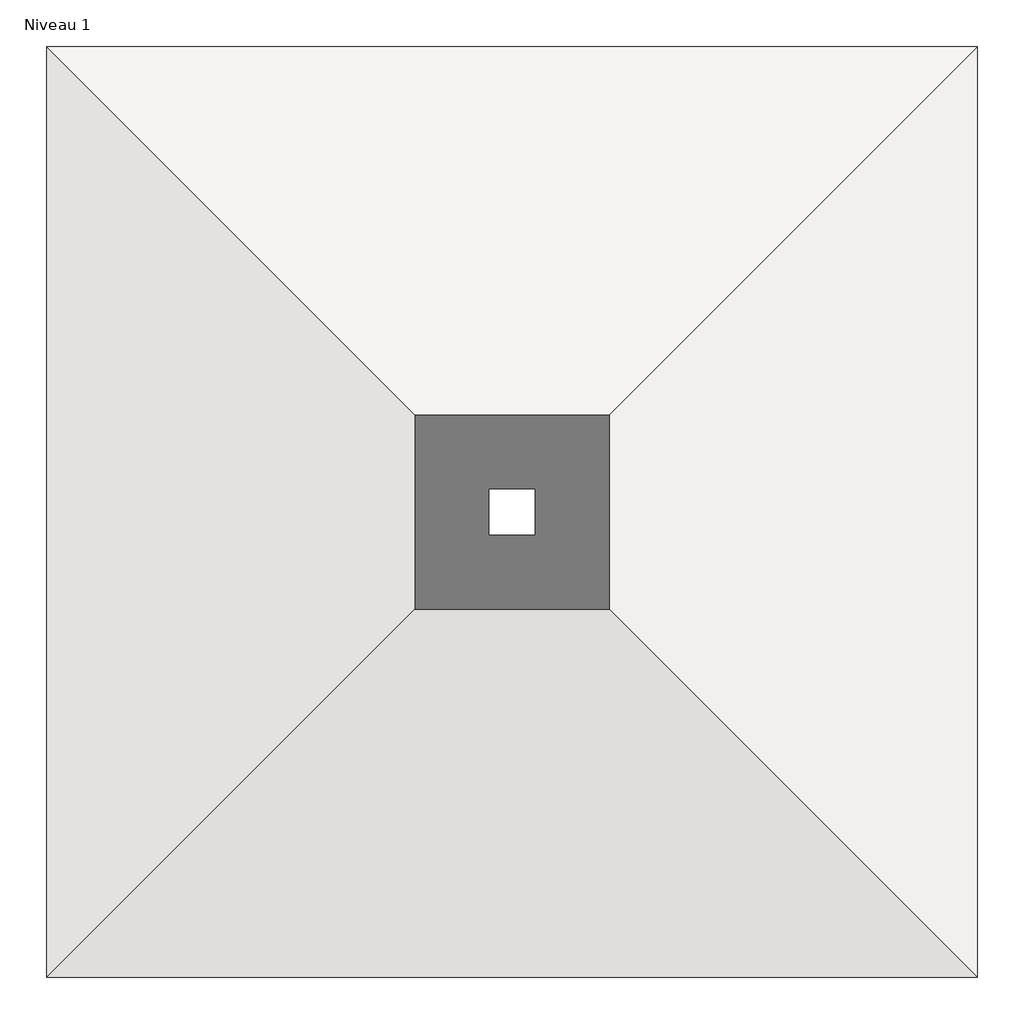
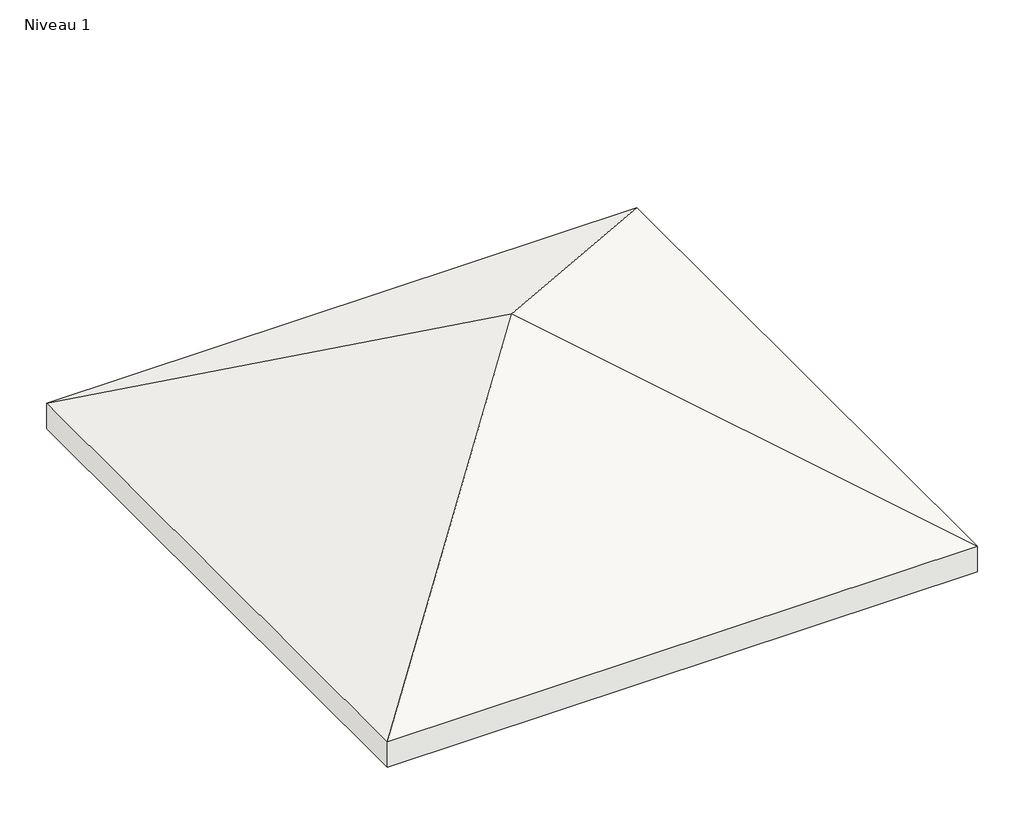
# One storey: 1 roof.
"""IFC4 building model written with IfcOpenShell, lengths in millimetres."""

import ifcopenshell
import ifcopenshell.guid

model = None  # the IFC model being written
_history = None  # IfcOwnerHistory: only IFC2X3 demands one
_inside = {}  # id of a spatial element -> (the spatial element, [elements in it])
_under = {}  # id of a project, library or spatial element -> (it, [spatial elements below it])
_declared = {}  # id of a project -> (the project, [libraries it declares])
_typed = {}  # id of a type object -> (the type object, [elements of that type])
_made_of = {}  # id of a material, layer set ... -> (it, [elements and type objects made of it])


def new_model(schema):
    """Start an empty IFC model of exactly this schema.

    Asked for "IFC4X3", IfcOpenShell would pick the latest addendum, in which some entities
    have other attributes; the version numbers below select the first issue.
    IFC2X3 requires an IfcOwnerHistory on every rooted entity: one is made here for all.
    """
    global model, _history
    if schema == "IFC4X3":
        model = ifcopenshell.file(schema_version=(4, 3, 0, 0))
    else:
        model = ifcopenshell.file(schema=schema)
    _inside.clear()
    _under.clear()
    _declared.clear()
    _typed.clear()
    _made_of.clear()
    _history = None
    if model.schema == "IFC2X3":
        org = make("IfcOrganization", Name="unknown")
        user = make(
            "IfcPersonAndOrganization",
            ThePerson=make("IfcPerson", FamilyName="unknown"),
            TheOrganization=org,
        )
        app = make(
            "IfcApplication",
            ApplicationDeveloper=org,
            Version="unknown",
            ApplicationFullName="unknown",
            ApplicationIdentifier="unknown",
        )
        _history = make(
            "IfcOwnerHistory",
            OwningUser=user,
            OwningApplication=app,
            ChangeAction="ADDED",
            CreationDate=0,
        )
    return model


def make(cls, **values):
    """One entity of the class cls with the attributes given. An attribute that is None is left unset."""
    return model.create_entity(
        cls, **{name: value for name, value in values.items() if value is not None}
    )


def rooted(cls, **values):
    """An entity with a GlobalId (a new one), such as an element, a storey or a relation."""
    return make(cls, GlobalId=ifcopenshell.guid.new(), OwnerHistory=_history, **values)


def si_unit(unit_type, name, prefix=None):
    """IfcSIUnit, for example si_unit("LENGTHUNIT", "METRE", prefix="MILLI")."""
    return make("IfcSIUnit", UnitType=unit_type, Prefix=prefix, Name=name)


def assignment(units):
    """IfcUnitAssignment: the units of a project."""
    return None if units is None else make("IfcUnitAssignment", Units=units)


def point(xyz):
    """IfcCartesianPoint."""
    return None if xyz is None else make("IfcCartesianPoint", Coordinates=xyz)


def direction(xyz):
    """IfcDirection."""
    return None if xyz is None else make("IfcDirection", DirectionRatios=xyz)


def frame(location, z_axis=None, x_axis=None):
    """IfcAxis2Placement3D, a coordinate frame: its origin and axes. An axis left out is left unset."""
    return make(
        "IfcAxis2Placement3D",
        Location=point(location),
        Axis=direction(z_axis),
        RefDirection=direction(x_axis),
    )


def origin():
    """The frame at (0, 0, 0) with its axes left unset."""
    return frame((0.0, 0.0, 0.0))


def place(relative_to, where):
    """IfcLocalPlacement: puts the frame where relative to a parent placement (None: the world)."""
    return make(
        "IfcLocalPlacement", PlacementRelTo=relative_to, RelativePlacement=where
    )


def context(
    kind, dimensions, precision=None, world=None, true_north=None, identifier=None
):
    """IfcGeometricRepresentationContext, for example the 3D "Model" context."""
    return make(
        "IfcGeometricRepresentationContext",
        ContextIdentifier=identifier,
        ContextType=kind,
        CoordinateSpaceDimension=dimensions,
        Precision=precision,
        WorldCoordinateSystem=world,
        TrueNorth=true_north,
    )


def project(units=None, contexts=None):
    """IfcProject with its units and contexts."""
    return rooted(
        "IfcProject",
        Name="project",
        RepresentationContexts=contexts,
        UnitsInContext=assignment(units),
    )


def spatial(cls, under=None, at=None, **own):
    """A site, building, storey or space (cls), placed at a placement, below another one or the project."""
    s = rooted(cls, ObjectPlacement=at, **own)
    if under is not None:
        _under.setdefault(under.id(), (under, []))[1].append(s)
    return s


def faces_of(points, faces, orient=None, outer=None):
    """IfcFace entities. A face is a list of loops; a loop is a list of indices into points, from 0.

    orient and outer hold one flag for each loop. By default every Orientation is true, the
    first loop of a face is its IfcFaceOuterBound and the others are IfcFaceBound.
    """
    made = []
    for i, loops in enumerate(faces):
        bounds = []
        for j, loop in enumerate(loops):
            is_outer = j == 0 if outer is None else outer[i][j]
            bounds.append(
                make(
                    "IfcFaceOuterBound" if is_outer else "IfcFaceBound",
                    Bound=make("IfcPolyLoop", Polygon=[points[k] for k in loop]),
                    Orientation=True if orient is None else orient[i][j],
                )
            )
        made.append(make("IfcFace", Bounds=bounds))
    return made


def faceted_brep(points, faces, orient=None, outer=None, voids=None):
    """IfcFacetedBrep: a solid bounded by flat faces; with voids (closed shells), ...WithVoids."""
    shared = [point(p) for p in points]
    hull = make("IfcClosedShell", CfsFaces=faces_of(shared, faces, orient, outer))
    if voids is None:
        return make("IfcFacetedBrep", Outer=hull)
    return make(
        "IfcFacetedBrepWithVoids",
        Outer=hull,
        Voids=[
            make(cls, CfsFaces=faces_of(shared, fs, o, b)) for cls, fs, o, b in voids
        ],
    )


def shape(context_of_items, identifier, shape_type, items):
    """IfcShapeRepresentation: the items that make up one representation, for example the "Body"."""
    return make(
        "IfcShapeRepresentation",
        ContextOfItems=context_of_items,
        RepresentationIdentifier=identifier,
        RepresentationType=shape_type,
        Items=items,
    )


def made_of(thing, what):
    """Note that an element or type object is made of a material, layer set ...; save() writes the relation."""
    if what is not None:
        _made_of.setdefault(what.id(), (what, []))[1].append(thing)
    return thing


def element(
    cls,
    number,
    at=None,
    inside=None,
    cuts=None,
    type_object=None,
    material=None,
    context=None,
    identifier="Body",
    shape_type=None,
    held_by="IfcProductDefinitionShape",
    body=None,
    shapes=None,
    **own,
):
    """One element of the class cls, such as IfcWall. Its Tag is "e" and its number.

    at: its placement. inside: the storey or other place that contains it. cuts: it is an
    opening in that element (IfcRelVoidsElement). A single representation is given by context,
    identifier, shape_type and body (its items); several are given by shapes. held_by: the class
    of the entity that holds the representations. save() writes the other relations.
    """
    e = rooted(cls, Tag="e%d" % number, ObjectPlacement=at, **own)
    if body is not None:
        shapes = [shape(context, identifier, shape_type, body)]
    if shapes is not None:
        e.Representation = make(held_by, Representations=shapes)
    if inside is not None:
        _inside.setdefault(inside.id(), (inside, []))[1].append(e)
    if cuts is not None:
        rooted(
            "IfcRelVoidsElement", RelatingBuildingElement=cuts, RelatedOpeningElement=e
        )
    if type_object is not None:
        _typed.setdefault(type_object.id(), (type_object, []))[1].append(e)
    return made_of(e, material)


def aggregate(whole, parts):
    """IfcRelAggregates: a whole, such as a stair, and the parts it consists of."""
    return rooted("IfcRelAggregates", RelatingObject=whole, RelatedObjects=parts)


def save(model, path):
    """Write the relations noted so far, then the file.

    IfcRelAggregates (storeys below a building ...), IfcRelContainedInSpatialStructure (elements
    in a storey), IfcRelDefinesByType, IfcRelAssociatesMaterial and IfcRelDeclares: one each for
    every whole, place, type object, material and project.
    """
    for whole, parts in _under.values():
        aggregate(whole, parts)
    for where, things in _inside.values():
        rooted(
            "IfcRelContainedInSpatialStructure",
            RelatedElements=things,
            RelatingStructure=where,
        )
    for kind, things in _typed.values():
        rooted("IfcRelDefinesByType", RelatedObjects=things, RelatingType=kind)
    for what, things in _made_of.values():
        rooted("IfcRelAssociatesMaterial", RelatedObjects=things, RelatingMaterial=what)
    for by, libraries in _declared.values():
        rooted("IfcRelDeclares", RelatingContext=by, RelatedDefinitions=libraries)
    model.write(path)


model = new_model("IFC4")

# Units and contexts
model_context = context("Model", 3, world=origin())
ifc_project = project(units=[si_unit("LENGTHUNIT", "METRE", prefix="MILLI")], contexts=[model_context])

# Site, building, storey
site = spatial("IfcSite", under=ifc_project)
building = spatial("IfcBuilding", under=site)
storey = spatial("IfcBuildingStorey", under=building, Name="Niveau 1", Elevation=3000.0)

# Roof
placement = place(None, origin())
element("IfcRoof", 1, ObjectType="Toit - 200 mm", at=placement, inside=storey, context=model_context, shape_type="Brep", body=[
    faceted_brep([(-6426.0197103, -1214.2366435, 4270.1705922), (-8926.0197103, 1285.7633565, 2826.7949192), (-3926.0197103, 1285.7633565, 2826.7949192), (-8926.0197103, -3714.2366435, 2826.7949192), (-3926.0197103, -3714.2366435, 2826.7949192), (-8926.0197103, 1285.7633565, 3057.7350269), (-6426.0197103, -1214.2366435, 4501.1106999), (-3926.0197103, 1285.7633565, 3057.7350269), (-8926.0197103, -3714.2366435, 3057.7350269), (-3926.0197103, -3714.2366435, 3057.7350269)], [[[0, 1, 2]], [[3, 0, 4]], [[4, 0, 2]], [[5, 6, 7]], [[8, 9, 6]], [[9, 7, 6]], [[4, 9, 8, 3]], [[2, 7, 9, 4]], [[1, 5, 7, 2]], [[1, 0, 3]], [[5, 8, 6]], [[3, 8, 5, 1]]]),
])

save(model, "model.ifc")
